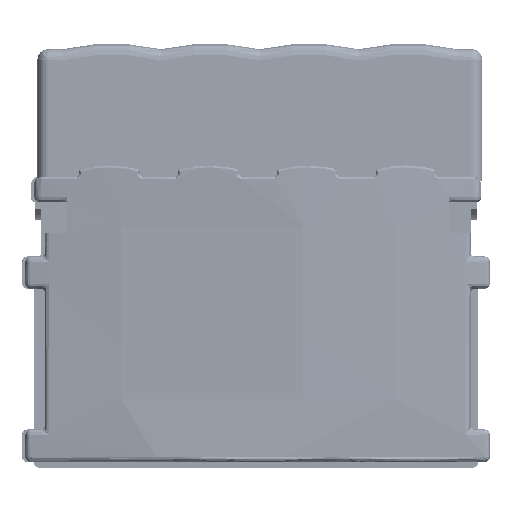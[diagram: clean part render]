
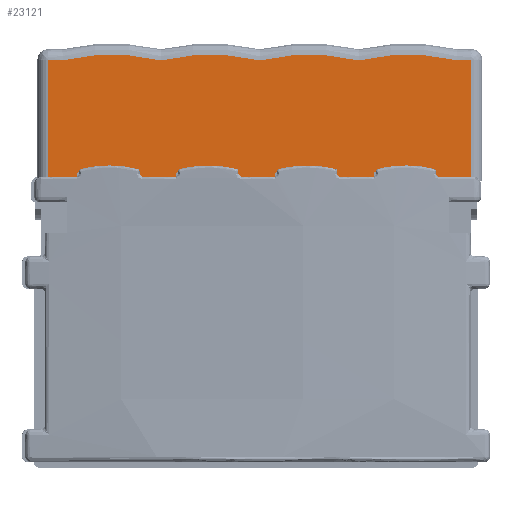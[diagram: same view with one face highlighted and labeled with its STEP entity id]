
A CAD part, front view. The second image highlights one B-rep face of the part: STEP entity #23121.
In plain terms, the highlighted planar face has unit normal (0, 0, -1) by its records, which use the part's own axes.
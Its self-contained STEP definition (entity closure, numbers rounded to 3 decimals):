
#1721 = DIRECTION ( 'NONE',  ( 1., 0., 0. ) ) ;
#2131 = EDGE_CURVE ( 'NONE', #22617, #9653, #32315, .T. ) ;
#2898 = DIRECTION ( 'NONE',  ( -1., 0., 0. ) ) ;
#4133 = CARTESIAN_POINT ( 'NONE',  ( 23.868, 23.339, 15. ) ) ;
#9653 = VERTEX_POINT ( 'NONE', #34081 ) ;
#12038 = VECTOR ( 'NONE', #13108, 1000. ) ;
#12176 = CARTESIAN_POINT ( 'NONE',  ( -38.5, 0., 15. ) ) ;
#12376 = LINE ( 'NONE', #12176, #43539 ) ;
#13108 = DIRECTION ( 'NONE',  ( 1., 0., 0. ) ) ;
#13207 = CARTESIAN_POINT ( 'NONE',  ( 0., 21.947, 15. ) ) ;
#14286 = EDGE_LOOP ( 'NONE', ( #36209, #30093, #36427, #55933, #52679, #77775, #54729, #68407, #21917 ) ) ;
#14789 = CARTESIAN_POINT ( 'NONE',  ( 38.5, 22., 15. ) ) ;
#18421 = DIRECTION ( 'NONE',  ( 0., -1., 0. ) ) ;
#20017 = CARTESIAN_POINT ( 'NONE',  ( 0., 22., 15. ) ) ;
#20252 = CARTESIAN_POINT ( 'NONE',  ( -12.055, 23.357, 15. ) ) ;
#20476 = LINE ( 'NONE', #33943, #68138 ) ;
#20758 = DIRECTION ( 'NONE',  ( -1., 0., 0. ) ) ;
#21917 = ORIENTED_EDGE ( 'NONE', *, *, #59460, .F. ) ;
#22219 = CARTESIAN_POINT ( 'NONE',  ( -23.868, 23.339, 15. ) ) ;
#22617 = VERTEX_POINT ( 'NONE', #13207 ) ;
#22673 = CARTESIAN_POINT ( 'NONE',  ( 38.5, 0., 15. ) ) ;
#22791 = VERTEX_POINT ( 'NONE', #14789 ) ;
#22892 = CARTESIAN_POINT ( 'NONE',  ( 35.775, 22., 15. ) ) ;
#23121 = ADVANCED_FACE ( 'NONE', ( #28600 ), #75904, .F. ) ;
#26431 = CARTESIAN_POINT ( 'NONE',  ( 0., 0., 15. ) ) ;
#26924 = EDGE_CURVE ( 'NONE', #51797, #45554, #31554, .T. ) ;
#28600 = FACE_OUTER_BOUND ( 'NONE', #14286, .T. ) ;
#29900 = CARTESIAN_POINT ( 'NONE',  ( -5.945, 23.357, 15. ) ) ;
#30093 = ORIENTED_EDGE ( 'NONE', *, *, #37283, .F. ) ;
#31554 =( BOUNDED_CURVE ( )  B_SPLINE_CURVE ( 3, ( #22892, #72359, #4133, #66398 ),
 .UNSPECIFIED., .F., .F. ) 
 B_SPLINE_CURVE_WITH_KNOTS ( ( 4, 4 ),
 ( 0., 1. ),
 .UNSPECIFIED. ) 
 CURVE ( )  GEOMETRIC_REPRESENTATION_ITEM ( )  RATIONAL_B_SPLINE_CURVE ( ( 1., 0.982, 0.982, 1. ) ) 
 REPRESENTATION_ITEM ( '' )  );
#32315 =( BOUNDED_CURVE ( )  B_SPLINE_CURVE ( 3, ( #57702, #29900, #20252, #60756 ),
 .UNSPECIFIED., .F., .F. ) 
 B_SPLINE_CURVE_WITH_KNOTS ( ( 4, 4 ),
 ( 0., 1. ),
 .UNSPECIFIED. ) 
 CURVE ( )  GEOMETRIC_REPRESENTATION_ITEM ( )  RATIONAL_B_SPLINE_CURVE ( ( 1., 0.982, 0.982, 1. ) ) 
 REPRESENTATION_ITEM ( '' )  );
#33943 = CARTESIAN_POINT ( 'NONE',  ( 0., 22., 15. ) ) ;
#34081 = CARTESIAN_POINT ( 'NONE',  ( -18., 21.947, 15. ) ) ;
#34322 = CARTESIAN_POINT ( 'NONE',  ( 35.775, 22., 15. ) ) ;
#35067 = CARTESIAN_POINT ( 'NONE',  ( 0., 21.947, 15. ) ) ;
#36209 = ORIENTED_EDGE ( 'NONE', *, *, #63186, .F. ) ;
#36427 = ORIENTED_EDGE ( 'NONE', *, *, #44078, .F. ) ;
#37283 = EDGE_CURVE ( 'NONE', #51235, #69651, #12376, .T. ) ;
#37561 =( BOUNDED_CURVE ( )  B_SPLINE_CURVE ( 3, ( #47051, #53333, #72269, #35067 ),
 .UNSPECIFIED., .F., .F. ) 
 B_SPLINE_CURVE_WITH_KNOTS ( ( 4, 4 ),
 ( 0., 1. ),
 .UNSPECIFIED. ) 
 CURVE ( )  GEOMETRIC_REPRESENTATION_ITEM ( )  RATIONAL_B_SPLINE_CURVE ( ( 1., 0.982, 0.982, 1. ) ) 
 REPRESENTATION_ITEM ( '' )  );
#38972 = DIRECTION ( 'NONE',  ( 0., 0., 1. ) ) ;
#40231 = VERTEX_POINT ( 'NONE', #22673 ) ;
#41011 = CARTESIAN_POINT ( 'NONE',  ( -35.775, 22., 15. ) ) ;
#42351 = LINE ( 'NONE', #20017, #58923 ) ;
#42352 = CARTESIAN_POINT ( 'NONE',  ( 18., 21.947, 15. ) ) ;
#43539 = VECTOR ( 'NONE', #18421, 1000. ) ;
#44078 = EDGE_CURVE ( 'NONE', #56043, #51235, #20476, .T. ) ;
#44127 = CARTESIAN_POINT ( 'NONE',  ( 0., 0., 15. ) ) ;
#45554 = VERTEX_POINT ( 'NONE', #42352 ) ;
#46583 = LINE ( 'NONE', #66966, #77658 ) ;
#47051 = CARTESIAN_POINT ( 'NONE',  ( 18., 21.947, 15. ) ) ;
#51235 = VERTEX_POINT ( 'NONE', #57826 ) ;
#51797 = VERTEX_POINT ( 'NONE', #34322 ) ;
#52679 = ORIENTED_EDGE ( 'NONE', *, *, #2131, .F. ) ;
#53333 = CARTESIAN_POINT ( 'NONE',  ( 12.055, 23.357, 15. ) ) ;
#54367 = EDGE_CURVE ( 'NONE', #22791, #51797, #42351, .T. ) ;
#54729 = ORIENTED_EDGE ( 'NONE', *, *, #26924, .F. ) ;
#55933 = ORIENTED_EDGE ( 'NONE', *, *, #62261, .F. ) ;
#56043 = VERTEX_POINT ( 'NONE', #80535 ) ;
#57702 = CARTESIAN_POINT ( 'NONE',  ( 0., 21.947, 15. ) ) ;
#57826 = CARTESIAN_POINT ( 'NONE',  ( -38.5, 22., 15. ) ) ;
#58923 = VECTOR ( 'NONE', #20758, 1000. ) ;
#59460 = EDGE_CURVE ( 'NONE', #40231, #22791, #46583, .T. ) ;
#60756 = CARTESIAN_POINT ( 'NONE',  ( -18., 21.947, 15. ) ) ;
#62261 = EDGE_CURVE ( 'NONE', #9653, #56043, #63591, .T. ) ;
#63186 = EDGE_CURVE ( 'NONE', #69651, #40231, #80163, .T. ) ;
#63591 =( BOUNDED_CURVE ( )  B_SPLINE_CURVE ( 3, ( #65736, #22219, #78208, #41011 ),
 .UNSPECIFIED., .F., .F. ) 
 B_SPLINE_CURVE_WITH_KNOTS ( ( 4, 4 ),
 ( 0., 1. ),
 .UNSPECIFIED. ) 
 CURVE ( )  GEOMETRIC_REPRESENTATION_ITEM ( )  RATIONAL_B_SPLINE_CURVE ( ( 1., 0.982, 0.982, 1. ) ) 
 REPRESENTATION_ITEM ( '' )  );
#65736 = CARTESIAN_POINT ( 'NONE',  ( -18., 21.947, 15. ) ) ;
#66398 = CARTESIAN_POINT ( 'NONE',  ( 18., 21.947, 15. ) ) ;
#66966 = CARTESIAN_POINT ( 'NONE',  ( 38.5, 0., 15. ) ) ;
#68138 = VECTOR ( 'NONE', #2898, 1000. ) ;
#68338 = CARTESIAN_POINT ( 'NONE',  ( -38.5, 0., 15. ) ) ;
#68407 = ORIENTED_EDGE ( 'NONE', *, *, #54367, .F. ) ;
#69651 = VERTEX_POINT ( 'NONE', #68338 ) ;
#71731 = AXIS2_PLACEMENT_3D ( 'NONE', #26431, #38972, #1721 ) ;
#72269 = CARTESIAN_POINT ( 'NONE',  ( 5.945, 23.357, 15. ) ) ;
#72359 = CARTESIAN_POINT ( 'NONE',  ( 29.899, 23.357, 15. ) ) ;
#73203 = EDGE_CURVE ( 'NONE', #45554, #22617, #37561, .T. ) ;
#73216 = DIRECTION ( 'NONE',  ( 0., 1., 0. ) ) ;
#75904 = PLANE ( 'NONE',  #71731 ) ;
#77658 = VECTOR ( 'NONE', #73216, 1000. ) ;
#77775 = ORIENTED_EDGE ( 'NONE', *, *, #73203, .F. ) ;
#78208 = CARTESIAN_POINT ( 'NONE',  ( -29.899, 23.357, 15. ) ) ;
#80163 = LINE ( 'NONE', #44127, #12038 ) ;
#80535 = CARTESIAN_POINT ( 'NONE',  ( -35.775, 22., 15. ) ) ;
